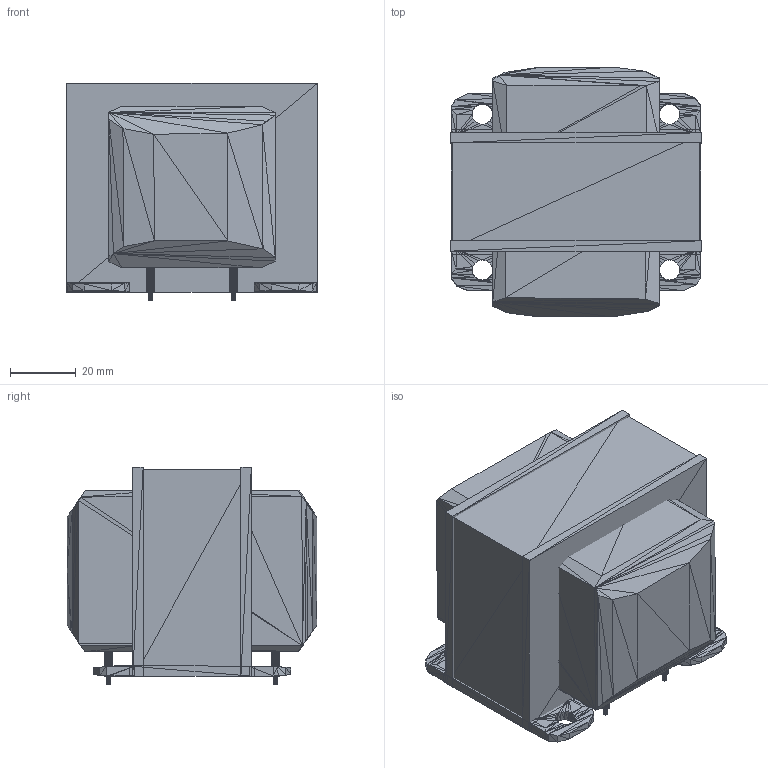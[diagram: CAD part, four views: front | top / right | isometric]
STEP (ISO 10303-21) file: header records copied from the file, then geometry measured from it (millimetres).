
FILE_DESCRIPTION(('HOOPS Exchange Step'),'2;1');
FILE_NAME('***.stp');
FILE_SCHEMA( ('AP242_MANAGED_MODEL_BASED_3D_ENGINEERING_MIM_LF {1 0 10303 442 1 1 4 }') );
Length unit declared in the file: inch
Products named in the file (15): XFRMSPKR_2; XFRMSPKR_3; XFRMSPKR_4; XFRMSPKR_5; XFRMSPKR_6; XFRMSPKR_7; XFRMSPKR_8; XFRMSPKR_9; XFRMSPKR_10; XFRMSPKR_11; XFRMSPKR_12; XFRMSPKR_13; XFRMSPKR_14; XFRMSPKR_15; XFRMSPKR
Assembly tree (14 placements, depth 2):
  XFRMSPKR
    XFRMSPKR_2
    XFRMSPKR_3
    XFRMSPKR_4
    XFRMSPKR_5
    XFRMSPKR_6
    XFRMSPKR_7
    XFRMSPKR_8
    XFRMSPKR_9
    XFRMSPKR_10
    XFRMSPKR_11
    XFRMSPKR_12
    XFRMSPKR_13
    XFRMSPKR_14
    XFRMSPKR_15
Bounding box: 76.36 x 76.21 x 66.37 mm (x, y, z)
Volume: 378783 mm3; surface area: 65184.8 mm2
Topology: 14 solids, 18 shells, 1458 faces, 2187 edges, 757 vertices
Faces by surface type: plane 1458
Entity records: 29160 total; most frequent: DIRECTION 5163, CARTESIAN_POINT 4432, ORIENTED_EDGE 4374, VECTOR 2187, LINE 2187, EDGE_CURVE 2187, AXIS2_PLACEMENT_3D 1488, PLANE 1458
